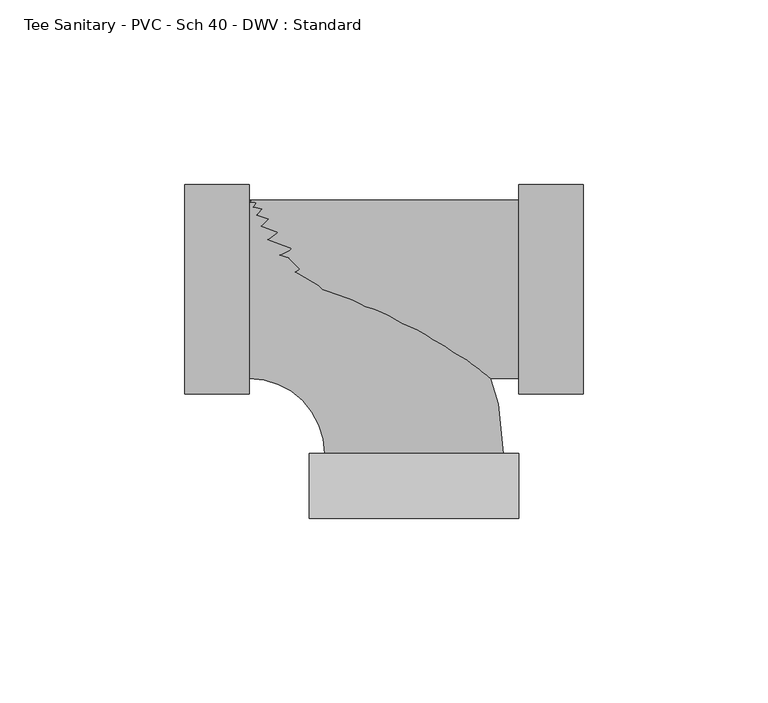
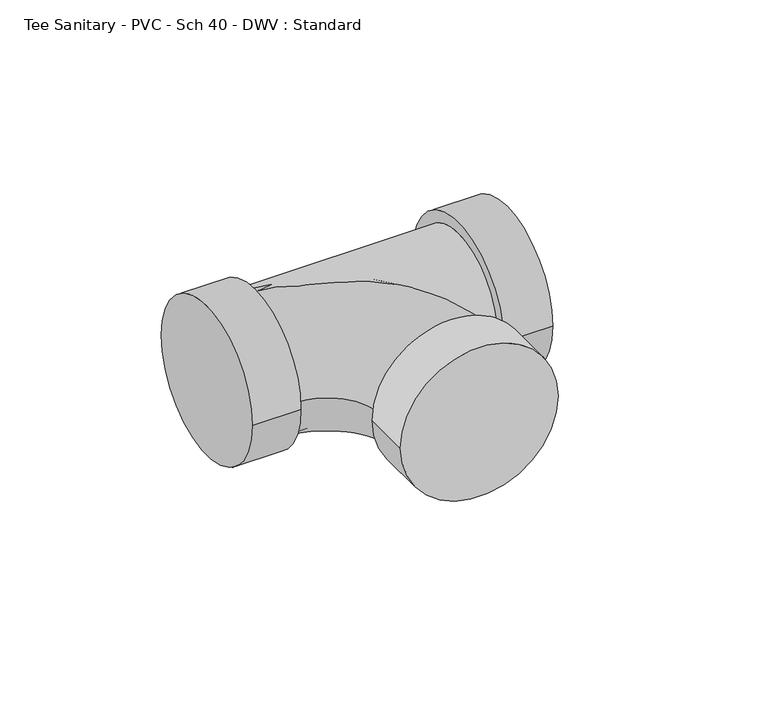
"""IFC4 building model written with IfcOpenShell, lengths in millimetres: pipe fitting geometry, Tee Sanitary - PVC - Sch 40 - DWV : Standard."""

from ifc_helpers import new_model, si_unit, point, frame, origin, place, context, project, spatial, circle_curve, ellipse_curve, trimmed, source, transform, mapped, element, save
from ifc_brep_helpers import plane_surface, cylinder_surface, revolved_surface, advanced_brep


def tee_sanitary_pvc_sch_40_dwv_standard_b95f781d(model_context):
    return source(origin(), model_context, "Body", "AdvancedBrep", [
        advanced_brep(
        [(-44.45, -24.13, 0.0), (-44.45, 24.13, 0.0), (-24.1298452, -44.450084, 0.0), (24.1301548, -44.449916, 0.0), (28.2831156, -61.8997015, 0.0), (-28.2826844, -61.8998985, 0.0), (28.2830548, -44.4499015, 0.0), (-28.2827452, -44.4500985, 0.0)],
        [
            (0, 1, circle_curve(frame((-44.45, 0.0, 0.0), z_axis=(-1.0, 0.0, 0.0), x_axis=(0.0, 1.0, 0.0)), 24.13)),
            (1, 0, circle_curve(frame((-44.45, 0.0, 0.0), z_axis=(-1.0, 0.0, 0.0), x_axis=(0.0, 1.0, 0.0)), 24.13)),
            (0, 2, circle_curve(frame((-44.45, -44.4501548, 0.0), z_axis=(0.0, 0.0, -1.0), x_axis=(0.0, 1.0, 0.0)), 20.3201548)),
            (2, 3, circle_curve(frame((0.0001548, -44.45, 0.0), z_axis=(-3.482849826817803e-06, 0.9999999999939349, 0.0), x_axis=(0.9999999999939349, 3.482849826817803e-06, 0.0)), 24.13)),
            (3, 1, circle_curve(frame((-44.45, -44.4501548, 0.0), z_axis=(0.0, 0.0, 1.0), x_axis=(0.0, 1.0, 0.0)), 68.5801548)),
            (3, 2, circle_curve(frame((0.0001548, -44.45, 0.0), z_axis=(-3.482849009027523e-06, 0.9999999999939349, 0.0), x_axis=(0.9999999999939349, 3.482849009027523e-06, 0.0)), 24.13)),
            (4, 5, circle_curve(frame((0.0002156, -61.8998, 0.0), z_axis=(3.4828483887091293e-06, -0.999999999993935, 0.0), x_axis=(-0.999999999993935, -3.4828483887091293e-06, 0.0)), 28.2829)),
            (5, 4, circle_curve(frame((0.0002156, -61.8998, 0.0), z_axis=(3.4828483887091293e-06, -0.999999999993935, 0.0), x_axis=(-0.999999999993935, -3.4828483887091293e-06, 0.0)), 28.2829)),
            (6, 7, circle_curve(frame((0.0001548, -44.45, 0.0), z_axis=(-3.4828483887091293e-06, 0.999999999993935, 0.0), x_axis=(-0.999999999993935, -3.4828483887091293e-06, 0.0)), 28.2829)),
            (7, 6, circle_curve(frame((0.0001548, -44.45, 0.0), z_axis=(-3.4828483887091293e-06, 0.999999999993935, 0.0), x_axis=(-0.999999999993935, -3.4828483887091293e-06, 0.0)), 28.2829)),
            (4, 6),
            (7, 5),
        ],
        [
            plane_surface(frame((-44.45, 0.0, 0.0), z_axis=(-1.0, 0.0, 0.0), x_axis=(0.0, 0.0, 1.0))),
            revolved_surface(trimmed(ellipse_curve(frame((-44.45, 0.0, 0.0), z_axis=(-1.0, 0.0, 0.0), x_axis=(0.0, 1.0, 0.0)), 24.13, 24.13), [point((-44.45, -24.13, 0.0))], [point((-44.45, 24.13, 0.0))], True, "CARTESIAN"), (-44.45, -44.4501548, 0.0), (0.0, 0.0, -1.0)),
            revolved_surface(trimmed(ellipse_curve(frame((-44.45, 0.0, 0.0), z_axis=(-1.0, 0.0, 0.0), x_axis=(0.0, 1.0, 0.0)), 24.13, 24.13), [point((-44.45, 24.13, 0.0))], [point((-44.45, -24.13, 0.0))], True, "CARTESIAN"), (-44.45, -44.4501548, 0.0), (0.0, 0.0, -1.0)),
            plane_surface(frame((0.0002156, -61.8998, 0.0), z_axis=(3.4828483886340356e-06, -0.999999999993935, 0.0), x_axis=(0.0, 0.0, 1.0))),
            plane_surface(frame((0.0001548, -44.45, 0.0), z_axis=(-3.4828483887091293e-06, 0.999999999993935, 0.0), x_axis=(0.0, 0.0, 1.0))),
            cylinder_surface(frame((0.0002156, -61.8998, 0.0), z_axis=(3.4828483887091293e-06, -0.999999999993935, 0.0), x_axis=(-0.999999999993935, -3.4828483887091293e-06, 0.0)), 28.2829),
        ],
        [
            (0, [[1, 2]]),
            (1, [[-1, 3, 4, 5]]),
            (2, [[-2, -5, 6, -3]]),
            (3, [[7, 8]]),
            (4, [[9, 10], [-4, -6]]),
            (5, [[-7, 11, -10, 12]]),
            (5, [[-8, -12, -9, -11]]),
        ],
    ),
        advanced_brep(
        [(-44.45, -24.13, 0.0), (28.2830548, -24.13, 0.0), (28.2830548, 24.13, 0.0), (-44.45, 24.13, 0.0), (28.2830548, -28.2829, 0.0), (28.2830548, 28.2829, 0.0), (45.7328548, -28.2829, 0.0), (45.7328548, 28.2829, 0.0), (-61.8998, -28.2829, 0.0), (-61.8998, 28.2829, 0.0), (-44.45, -28.2829, 0.0), (-44.45, 28.2829, 0.0)],
        [
            (0, 1),
            (1, 2, circle_curve(frame((28.2830548, 0.0, 0.0), z_axis=(-1.0, 0.0, 0.0), x_axis=(0.0, 1.0, 0.0)), 24.13)),
            (2, 3),
            (3, 0, circle_curve(frame((-44.45, 0.0, 0.0), z_axis=(1.0, 0.0, 0.0), x_axis=(0.0, 1.0, 0.0)), 24.13)),
            (0, 3, circle_curve(frame((-44.45, 0.0, 0.0), z_axis=(1.0, 0.0, 0.0), x_axis=(0.0, 1.0, 0.0)), 24.13)),
            (2, 1, circle_curve(frame((28.2830548, 0.0, 0.0), z_axis=(-1.0, 0.0, 0.0), x_axis=(0.0, 1.0, 0.0)), 24.13)),
            (4, 5, circle_curve(frame((28.2830548, 0.0, 0.0), z_axis=(-1.0, 0.0, 0.0), x_axis=(0.0, 1.0, 0.0)), 28.2829)),
            (5, 4, circle_curve(frame((28.2830548, 0.0, 0.0), z_axis=(-1.0, 0.0, 0.0), x_axis=(0.0, 1.0, 0.0)), 28.2829)),
            (6, 7, circle_curve(frame((45.7328548, 0.0, 0.0), z_axis=(1.0, 0.0, 0.0), x_axis=(0.0, 1.0, 0.0)), 28.2829)),
            (7, 6, circle_curve(frame((45.7328548, 0.0, 0.0), z_axis=(1.0, 0.0, 0.0), x_axis=(0.0, 1.0, 0.0)), 28.2829)),
            (4, 6),
            (7, 5),
            (8, 9, circle_curve(frame((-61.8998, 0.0, 0.0), z_axis=(-1.0, 0.0, 0.0), x_axis=(0.0, 1.0, 0.0)), 28.2829)),
            (9, 8, circle_curve(frame((-61.8998, 0.0, 0.0), z_axis=(-1.0, 0.0, 0.0), x_axis=(0.0, 1.0, 0.0)), 28.2829)),
            (10, 11, circle_curve(frame((-44.45, 0.0, 0.0), z_axis=(1.0, 0.0, 0.0), x_axis=(0.0, 1.0, 0.0)), 28.2829)),
            (11, 10, circle_curve(frame((-44.45, 0.0, 0.0), z_axis=(1.0, 0.0, 0.0), x_axis=(0.0, 1.0, 0.0)), 28.2829)),
            (8, 10),
            (11, 9),
        ],
        [
            cylinder_surface(frame((-44.45, 0.0, 0.0), z_axis=(-1.0, 0.0, 0.0), x_axis=(0.0, 1.0, 0.0)), 24.13),
            plane_surface(frame((28.2830548, 0.0, 0.0), z_axis=(-1.0, 0.0, 0.0), x_axis=(0.0, 0.0, 1.0))),
            plane_surface(frame((45.7328548, 0.0, 0.0), z_axis=(1.0, 0.0, 0.0), x_axis=(0.0, 0.0, 1.0))),
            cylinder_surface(frame((28.2830548, 0.0, 0.0), z_axis=(-1.0, 0.0, 0.0), x_axis=(0.0, 1.0, 0.0)), 28.2829),
            plane_surface(frame((-61.8998, 0.0, 0.0), z_axis=(-1.0, 0.0, 0.0), x_axis=(0.0, 0.0, 1.0))),
            plane_surface(frame((-44.45, 0.0, 0.0), z_axis=(1.0, 0.0, 0.0), x_axis=(0.0, 0.0, 1.0))),
            cylinder_surface(frame((-61.8998, 0.0, 0.0), z_axis=(-1.0, 0.0, 0.0), x_axis=(0.0, 1.0, 0.0)), 28.2829),
        ],
        [
            (0, [[1, 2, 3, 4]]),
            (0, [[-1, 5, -3, 6]]),
            (1, [[7, 8], [-2, -6]]),
            (2, [[9, 10]]),
            (3, [[-7, 11, -10, 12]]),
            (3, [[-8, -12, -9, -11]]),
            (4, [[13, 14]]),
            (5, [[15, 16], [-4, -5]]),
            (6, [[-13, 17, -16, 18]]),
            (6, [[-14, -18, -15, -17]]),
        ],
    ),
    ])


if __name__ == "__main__":
    model = new_model("IFC4")
    model_context = context("Model", 3, world=origin())
    ifc_project = project(units=[si_unit("LENGTHUNIT", "METRE", prefix="MILLI")], contexts=[model_context])
    site = spatial("IfcSite", under=ifc_project)
    building = spatial("IfcBuilding", under=site)
    placement = place(None, origin())
    tee_sanitary_pvc_sch_40_dwv_standard_shape = tee_sanitary_pvc_sch_40_dwv_standard_b95f781d(model_context)
    element("IfcPipeFitting", 1, ObjectType="Tee Sanitary - PVC - Sch 40 - DWV : Standard", at=placement, inside=building, context=model_context, shape_type="MappedRepresentation", body=[
        mapped(tee_sanitary_pvc_sch_40_dwv_standard_shape, transform((0.0, 0.0, 0.0), x_axis=(1.0, 0.0, 0.0), y_axis=(0.0, 1.0, 0.0), z_axis=(0.0, 0.0, 1.0))),
    ])
    save(model, "model.ifc")
